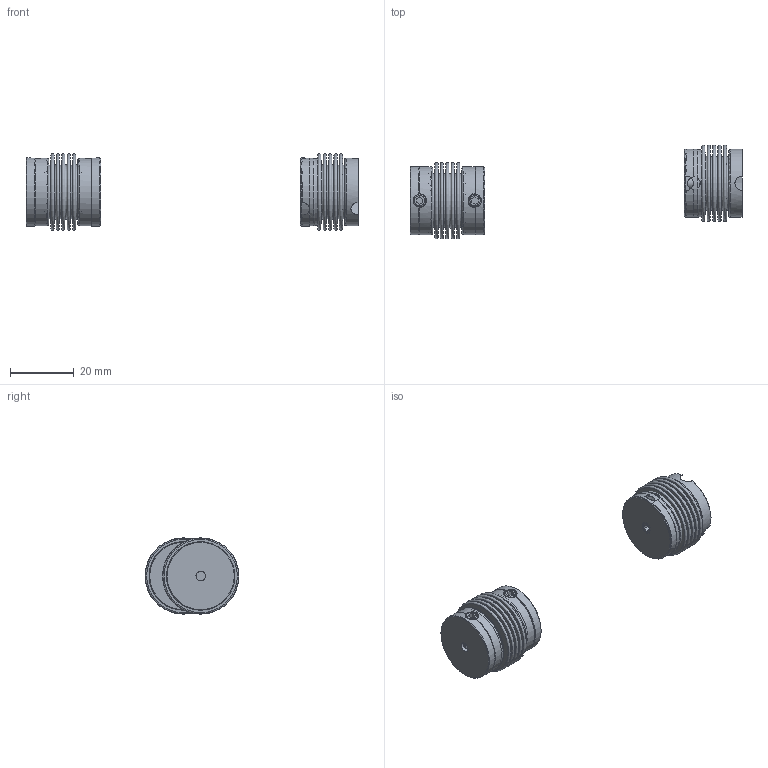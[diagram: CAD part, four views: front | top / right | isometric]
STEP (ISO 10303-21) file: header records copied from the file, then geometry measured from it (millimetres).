
FILE_DESCRIPTION( ( 'Unknown' ), '1' );
FILE_NAME( 'C:/Dokumente und Einstellungen/Sven/Desktop/cad - homepage/KB1/KB1-20-22.stp', 'Unknown', ( 'Unknown' ), ( 'Unknown' ), 'XStep 1.0', 'Unknown', ' ' );
FILE_SCHEMA( ( 'automotive_design' ) );
Length unit declared in the file: millimetre
Products named in the file (4): Assem1; Socket Set Screw Cup Point_DIN_DIN 916 - M4 x 6-N_1; BK20 - ausgeklinkt_Standard; MN20_Standard
Bounding box: 104.37 x 29.48 x 24 mm (x, y, z)
Volume: 7412.6 mm3; surface area: 18148.1 mm2
Topology: 10 solids, 10 shells, 223 faces, 487 edges, 316 vertices
Faces by surface type: plane 108, torus 52, cylinder 36, cone 27
Full cylindrical faces by diameter (mm): 3 x3, 4 x11, 21 x7, 21.3 x4, 21.5 x3
Entity records: 2999 total; most frequent: CARTESIAN_POINT 763, DIRECTION 372, ORIENTED_EDGE 250, AXIS2_PLACEMENT_3D 172, EDGE_LOOP 155, EDGE_CURVE 125, FACE_OUTER_BOUND 123, VERTEX_POINT 105
